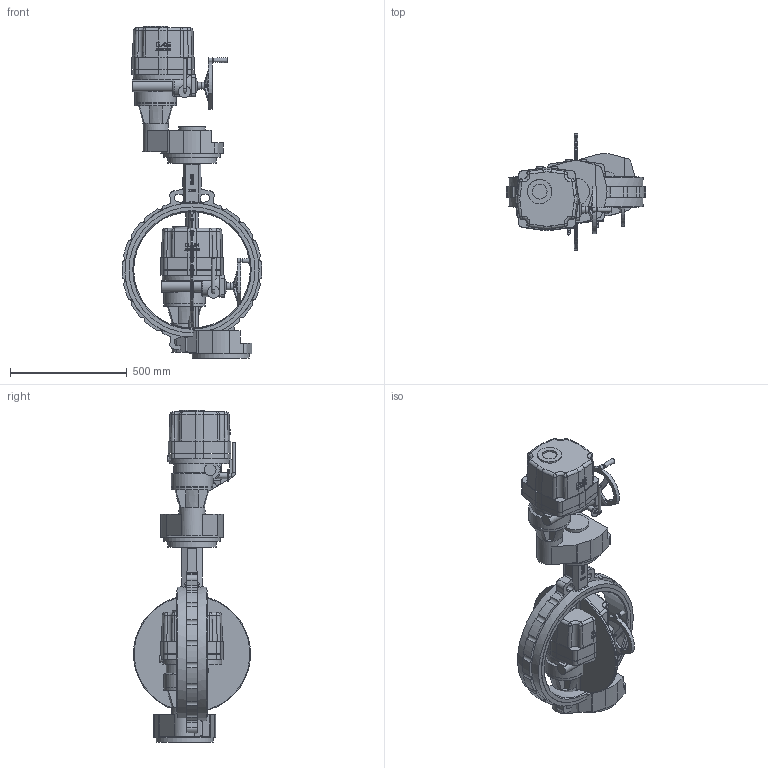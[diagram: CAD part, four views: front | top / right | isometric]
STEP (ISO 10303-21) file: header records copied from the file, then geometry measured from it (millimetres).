
FILE_DESCRIPTION( ( 'Unknown' ), '1' );
FILE_NAME( 'R:/ECCUA/ROOTSI BPS 3D vidinad/Poordklapid Wafer type/Butterfly valve(wafer) with electric actuator BPS/STEP formaat/BPS 2303500E butterfly valve DN500.stp', 'Unknown', ( 'Unknown' ), ( 'Unknown' ), 'PSStep 10.1', 'Unknown', ' ' );
FILE_SCHEMA( ( 'AUTOMOTIVE_DESIGN { 1 0 10303 214 1 1 1 1 }' ) );
Length unit declared in the file: millimetre
Products named in the file (4): Assem1; Butterfly valve wafer type DN500 BPS; BPS 80052000-3000 electric actuator DN450-600
Bounding box: 598.54 x 500.27 x 1423 mm (x, y, z)
Volume: 80136535.3 mm3; surface area: 4342644.9 mm2
Topology: 6 solids, 6 shells, 1264 faces, 3356 edges, 2176 vertices
Faces by surface type: plane 464, cylinder 400, bspline 150, cone 116, extrusion 88, torus 30, sphere 16
Full cylindrical faces by diameter (mm): 10.106 x16, 13 x4, 13.835 x16, 15 x2, 17.294 x16, 18 x10, 22 x8, 25 x4, 27 x4, 30 x4, 45 x2, 52 x2, 64 x2, 65 x2, 104 x2, 109.808 x2, 115 x2, 159 x2, 178 x4, 210 x2, 245 x2, 500 x2, 540 x4, 575 x4
Entity records: 35528 total; most frequent: CARTESIAN_POINT 15987, ORIENTED_EDGE 3084, DIRECTION 2655, EDGE_CURVE 1542, VERTEX_POINT 1058, AXIS2_PLACEMENT_3D 1012, EDGE_LOOP 798, FACE_OUTER_BOUND 700
